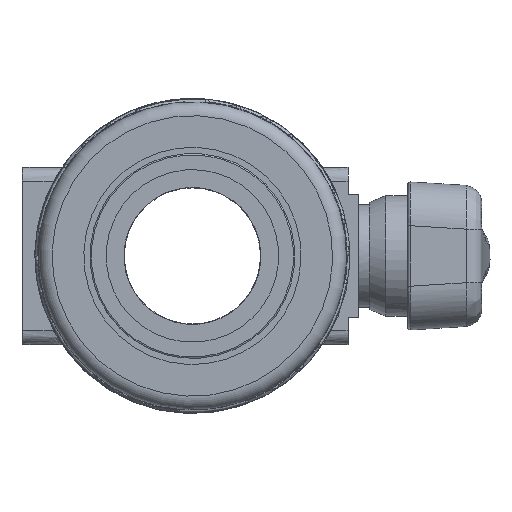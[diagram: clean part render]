
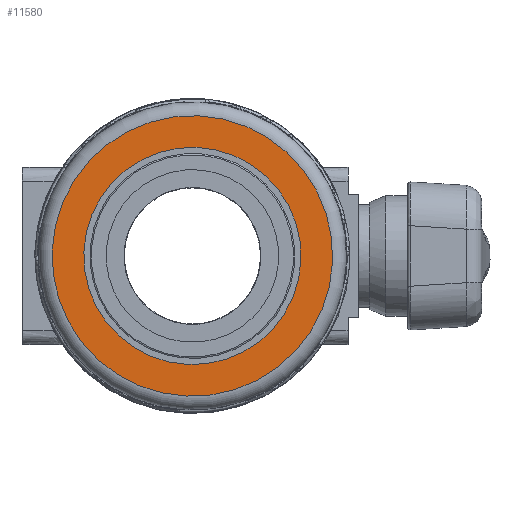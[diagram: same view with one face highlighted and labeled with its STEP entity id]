
A CAD part, front view. The second image highlights one B-rep face of the part: STEP entity #11580.
In plain terms, the highlighted planar face has unit normal (0, -1, 0).
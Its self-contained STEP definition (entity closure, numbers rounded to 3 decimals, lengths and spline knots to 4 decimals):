
#384=FACE_BOUND('',#2793,.T.);
#1403=CIRCLE('',#12552,5.12);
#1404=CIRCLE('',#12553,3.965);
#2055=FACE_OUTER_BOUND('',#2792,.T.);
#2792=EDGE_LOOP('',(#9059));
#2793=EDGE_LOOP('',(#9060));
#4970=VERTEX_POINT('',#44092);
#4971=VERTEX_POINT('',#44094);
#6416=EDGE_CURVE('',#4970,#4970,#1403,.T.);
#6417=EDGE_CURVE('',#4971,#4971,#1404,.T.);
#9059=ORIENTED_EDGE('',*,*,#6416,.F.);
#9060=ORIENTED_EDGE('',*,*,#6417,.T.);
#10368=PLANE('',#12551);
#11580=ADVANCED_FACE('',(#2055,#384),#10368,.T.);
#12551=AXIS2_PLACEMENT_3D('',#44091,#14801,#14802);
#12552=AXIS2_PLACEMENT_3D('',#44093,#14803,#14804);
#12553=AXIS2_PLACEMENT_3D('',#44095,#14805,#14806);
#14801=DIRECTION('center_axis',(0.,-1.,0.));
#14802=DIRECTION('ref_axis',(0.382,0.,0.924));
#14803=DIRECTION('center_axis',(0.,1.,0.));
#14804=DIRECTION('ref_axis',(-0.924,0.,0.382));
#14805=DIRECTION('center_axis',(0.,1.,0.));
#14806=DIRECTION('ref_axis',(-0.924,0.,0.382));
#44091=CARTESIAN_POINT('Origin',(4.7327,-5.83,-1.9534));
#44092=CARTESIAN_POINT('',(4.7327,-5.83,-1.9534));
#44093=CARTESIAN_POINT('Origin',(0.,-5.83,0.));
#44094=CARTESIAN_POINT('',(3.6651,-5.83,-1.5127));
#44095=CARTESIAN_POINT('Origin',(0.,-5.83,0.));
